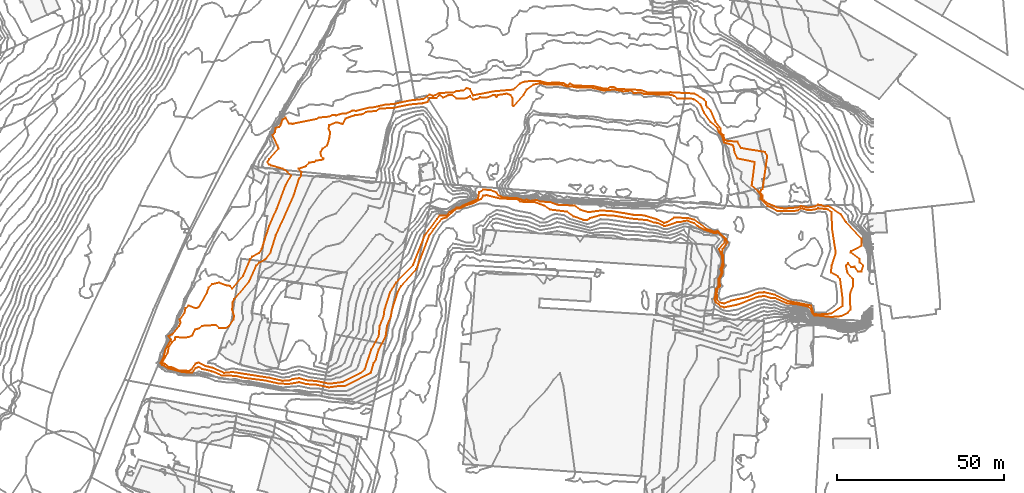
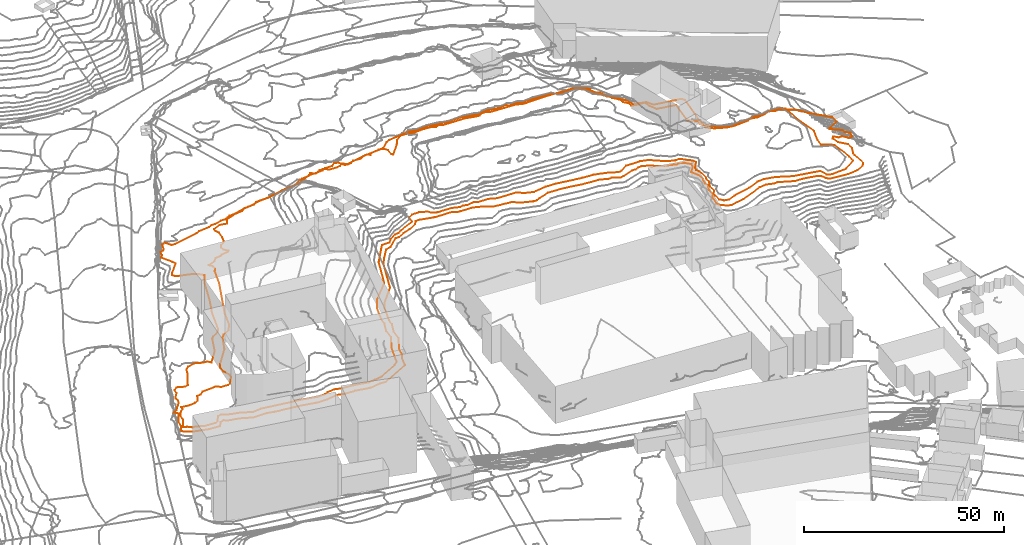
# Not in any storey, part 268 of 419: 2 proxies.
"""IFC2X3 model written with IfcOpenShell, lengths in metres."""

from ifc_helpers import new_model, entity, si_unit, frame, origin_with_axes, place, context, subcontext, project, element, save


model = new_model("IFC2X3")

# Units and contexts
model_context = context("Model", 3, precision=1e-05, world=origin_with_axes())
body_context = subcontext(model_context, "Body", "Model", "MODEL_VIEW")
ifc_project = project(units=[si_unit("AREAUNIT", "SQUARE_METRE"), si_unit("LENGTHUNIT", "METRE")], contexts=[model_context])

# Proxies
proxy_1_placement = place(None, frame((764.0491026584, 415.8976909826, 80.0), z_axis=(0.0, 0.0, 1.0), x_axis=(1.0, 0.0, 0.0)))
element("IfcBuildingElementProxy", 1, at=proxy_1_placement, Name="Contour 80.0 m", ObjectType="NOTDEFINED", context=body_context, shape_type="GeometricCurveSet", body=[
    entity("IfcGeometricCurveSet", [entity("IfcPolyline", [entity("IfcCartesianPoint", [52.042921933, -6.0, 0.0]), entity("IfcCartesianPoint", [50.0429177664, -6.2608677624, 0.0]), entity("IfcCartesianPoint", [46.0429177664, -5.4516107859, 0.0]), entity("IfcCartesianPoint", [43.0429177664, -5.1785724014, 0.0]), entity("IfcCartesianPoint", [41.0429177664, -4.5952406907, 0.0]), entity("IfcCartesianPoint", [39.0429177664, -4.8181786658, 0.0]), entity("IfcCartesianPoint", [38.0429177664, -5.2680431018, 0.0]), entity("IfcCartesianPoint", [36.0429177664, -5.382353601, 0.0]), entity("IfcCartesianPoint", [32.0429177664, -4.4700012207, 0.0]), entity("IfcCartesianPoint", [21.0429177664, -2.7395830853, 0.0]), entity("IfcCartesianPoint", [18.6143619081, -3.0, 0.0]), entity("IfcCartesianPoint", [15.0429177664, -1.4285726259, 0.0]), entity("IfcCartesianPoint", [13.0429177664, -0.9882327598, 0.0]), entity("IfcCartesianPoint", [11.0429177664, 0.0886071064, 0.0]), entity("IfcCartesianPoint", [10.0429177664, -0.1643865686, 0.0]), entity("IfcCartesianPoint", [8.8929162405, -2.0, 0.0]), entity("IfcCartesianPoint", [8.0429177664, -2.4146343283, 0.0]), entity("IfcCartesianPoint", [5.0429177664, -2.2525589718, 0.0]), entity("IfcCartesianPoint", [3.0429177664, -1.3419357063, 0.0]), entity("IfcCartesianPoint", [2.0429177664, -1.2129629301, 0.0]), entity("IfcCartesianPoint", [1.0429177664, -0.3448278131, 0.0]), entity("IfcCartesianPoint", [0.0, 0.0, 0.0]), entity("IfcCartesianPoint", [1.746622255, 3.0, 0.0]), entity("IfcCartesianPoint", [2.0429177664, 4.7812507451, 0.0]), entity("IfcCartesianPoint", [3.0429177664, 6.2666700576, 0.0]), entity("IfcCartesianPoint", [3.9056640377, 7.0, 0.0]), entity("IfcCartesianPoint", [4.0429177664, 7.7778060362, 0.0]), entity("IfcCartesianPoint", [6.0429177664, 7.5000124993, 0.0]), entity("IfcCartesianPoint", [8.0429177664, 7.7000076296, 0.0]), entity("IfcCartesianPoint", [9.0429177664, 8.2221939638, 0.0]), entity("IfcCartesianPoint", [9.9252891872, 10.0, 0.0]), entity("IfcCartesianPoint", [11.0429177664, 10.2307602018, 0.0]), entity("IfcCartesianPoint", [12.0429177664, 11.0434710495, 0.0]), entity("IfcCartesianPoint", [16.0429177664, 11.3106796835, 0.0]), entity("IfcCartesianPoint", [17.0429177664, 10.4666658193, 0.0]), entity("IfcCartesianPoint", [19.0429177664, 10.3370823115, 0.0]), entity("IfcCartesianPoint", [20.0429160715, 11.0, 0.0]), entity("IfcCartesianPoint", [21.4143401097, 13.0, 0.0]), entity("IfcCartesianPoint", [21.570701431, 14.0, 0.0]), entity("IfcCartesianPoint", [21.0429177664, 16.0000500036, 0.0]), entity("IfcCartesianPoint", [21.1338226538, 18.0, 0.0]), entity("IfcCartesianPoint", [21.6558186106, 19.0, 0.0]), entity("IfcCartesianPoint", [26.0429177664, 24.3478289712, 0.0]), entity("IfcCartesianPoint", [28.20959291, 29.0, 0.0]), entity("IfcCartesianPoint", [29.0429177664, 29.9259374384, 0.0]), entity("IfcCartesianPoint", [31.0429135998, 31.0, 0.0]), entity("IfcCartesianPoint", [32.4429177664, 33.0, 0.0]), entity("IfcCartesianPoint", [34.0106533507, 38.0, 0.0]), entity("IfcCartesianPoint", [39.3654960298, 50.0, 0.0]), entity("IfcCartesianPoint", [40.9762612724, 55.0, 0.0]), entity("IfcCartesianPoint", [41.6725484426, 56.0, 0.0]), entity("IfcCartesianPoint", [41.6880742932, 57.0, 0.0]), entity("IfcCartesianPoint", [40.900029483, 58.0, 0.0]), entity("IfcCartesianPoint", [43.0429177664, 58.7857220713, 0.0]), entity("IfcCartesianPoint", [44.0429177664, 59.882371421, 0.0]), entity("IfcCartesianPoint", [45.5428927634, 60.0, 0.0]), entity("IfcCartesianPoint", [46.0429177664, 60.39996948, 0.0]), entity("IfcCartesianPoint", [48.0429177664, 60.714332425, 0.0]), entity("IfcCartesianPoint", [48.3762087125, 61.0, 0.0]), entity("IfcCartesianPoint", [47.542905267, 62.0, 0.0]), entity("IfcCartesianPoint", [47.4714736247, 63.0, 0.0]), entity("IfcCartesianPoint", [48.042867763, 64.0, 0.0]), entity("IfcCartesianPoint", [49.3763358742, 65.0, 0.0]), entity("IfcCartesianPoint", [50.042905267, 67.0, 0.0]), entity("IfcCartesianPoint", [50.292965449, 69.0, 0.0]), entity("IfcCartesianPoint", [49.8428872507, 70.0, 0.0]), entity("IfcCartesianPoint", [50.042905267, 71.0, 0.0]), entity("IfcCartesianPoint", [52.0429177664, 71.8749761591, 0.0]), entity("IfcCartesianPoint", [54.0429177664, 71.39996948, 0.0]), entity("IfcCartesianPoint", [54.8429482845, 73.0, 0.0]), entity("IfcCartesianPoint", [56.0429177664, 73.4545706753, 0.0]), entity("IfcCartesianPoint", [57.7096268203, 74.0, 0.0]), entity("IfcCartesianPoint", [60.0429177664, 74.2999923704, 0.0]), entity("IfcCartesianPoint", [61.0429130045, 75.0, 0.0]), entity("IfcCartesianPoint", [64.0429177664, 75.2619073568, 0.0]), entity("IfcCartesianPoint", [65.0429177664, 76.0000006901, 0.0]), entity("IfcCartesianPoint", [69.0429177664, 76.144442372, 0.0]), entity("IfcCartesianPoint", [74.0429177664, 77.2048166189, 0.0]), entity("IfcCartesianPoint", [78.0429177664, 77.5731724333, 0.0]), entity("IfcCartesianPoint", [79.3554296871, 78.0, 0.0]), entity("IfcCartesianPoint", [80.0429177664, 79.0918333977, 0.0]), entity("IfcCartesianPoint", [82.0429177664, 79.1333312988, 0.0]), entity("IfcCartesianPoint", [83.0429177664, 80.0602401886, 0.0]), entity("IfcCartesianPoint", [84.0429177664, 79.263160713, 0.0]), entity("IfcCartesianPoint", [85.709584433, 80.0, 0.0]), entity("IfcCartesianPoint", [86.7096268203, 80.0, 0.0]), entity("IfcCartesianPoint", [88.0429177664, 79.0000500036, 0.0]), entity("IfcCartesianPoint", [90.0429177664, 78.9230633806, 0.0]), entity("IfcCartesianPoint", [91.0429177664, 79.1333163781, 0.0]), entity("IfcCartesianPoint", [92.0429177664, 79.75, 0.0]), entity("IfcCartesianPoint", [93.0429177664, 78.6750019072, 0.0]), entity("IfcCartesianPoint", [94.0429177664, 78.8235346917, 0.0]), entity("IfcCartesianPoint", [95.0429177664, 79.3571448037, 0.0]), entity("IfcCartesianPoint", [97.0429177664, 79.2580692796, 0.0]), entity("IfcCartesianPoint", [99.0429177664, 80.0312487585, 0.0]), entity("IfcCartesianPoint", [99.5429344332, 80.0, 0.0]), entity("IfcCartesianPoint", [100.0429177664, 79.39996948, 0.0]), entity("IfcCartesianPoint", [100.2736824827, 80.0, 0.0]), entity("IfcCartesianPoint", [103.0429177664, 80.4285714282, 0.0]), entity("IfcCartesianPoint", [104.2929177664, 80.0, 0.0]), entity("IfcCartesianPoint", [104.8762581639, 79.0, 0.0]), entity("IfcCartesianPoint", [104.7929177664, 77.0, 0.0]), entity("IfcCartesianPoint", [105.0429177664, 76.666666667, 0.0]), entity("IfcCartesianPoint", [108.0429177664, 80.0769366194, 0.0]), entity("IfcCartesianPoint", [109.0429177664, 81.6666760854, 0.0]), entity("IfcCartesianPoint", [111.0429177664, 83.1568656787, 0.0]), entity("IfcCartesianPoint", [113.0429177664, 83.5597830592, 0.0]), entity("IfcCartesianPoint", [115.0429177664, 83.1310664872, 0.0]), entity("IfcCartesianPoint", [119.0429177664, 83.2345125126, 0.0]), entity("IfcCartesianPoint", [121.0429177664, 82.506493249, 0.0]), entity("IfcCartesianPoint", [122.0429177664, 82.6390957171, 0.0]), entity("IfcCartesianPoint", [124.0429177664, 82.2539690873, 0.0]), entity("IfcCartesianPoint", [128.0429177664, 82.322727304, 0.0]), entity("IfcCartesianPoint", [132.0429177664, 81.3742688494, 0.0]), entity("IfcCartesianPoint", [135.0429177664, 81.6923089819, 0.0]), entity("IfcCartesianPoint", [138.0429177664, 81.1156054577, 0.0]), entity("IfcCartesianPoint", [140.0429177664, 81.364036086, 0.0]), entity("IfcCartesianPoint", [141.0429177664, 80.6871786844, 0.0]), entity("IfcCartesianPoint", [143.0429177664, 80.715054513, 0.0]), entity("IfcCartesianPoint", [144.0429177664, 80.3600006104, 0.0]), entity("IfcCartesianPoint", [152.0429177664, 80.0977427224, 0.0]), entity("IfcCartesianPoint", [153.0429177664, 79.7857149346, 0.0]), entity("IfcCartesianPoint", [154.0429177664, 78.9583350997, 0.0]), entity("IfcCartesianPoint", [158.0429177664, 78.9852909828, 0.0]), entity("IfcCartesianPoint", [159.0429177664, 78.7543869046, 0.0]), entity("IfcCartesianPoint", [161.0429177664, 77.1842110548, 0.0]), entity("IfcCartesianPoint", [162.0429177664, 74.8048753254, 0.0]), entity("IfcCartesianPoint", [164.0429177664, 71.9795877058, 0.0]), entity("IfcCartesianPoint", [166.0429177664, 70.1333312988, 0.0]), entity("IfcCartesianPoint", [166.4722378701, 69.0, 0.0]), entity("IfcCartesianPoint", [167.3958593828, 68.0, 0.0]), entity("IfcCartesianPoint", [168.0429177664, 65.8026897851, 0.0]), entity("IfcCartesianPoint", [170.7616670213, 65.0, 0.0]), entity("IfcCartesianPoint", [171.1705718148, 63.0, 0.0]), entity("IfcCartesianPoint", [172.0429177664, 61.0454640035, 0.0]), entity("IfcCartesianPoint", [177.1808515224, 60.0, 0.0]), entity("IfcCartesianPoint", [176.2929237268, 53.0, 0.0]), entity("IfcCartesianPoint", [178.0429177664, 51.4239132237, 0.0]), entity("IfcCartesianPoint", [179.0931683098, 50.0, 0.0]), entity("IfcCartesianPoint", [178.871648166, 49.0, 0.0]), entity("IfcCartesianPoint", [181.0429177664, 46.8666676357, 0.0]), entity("IfcCartesianPoint", [184.0429177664, 45.3186810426, 0.0]), entity("IfcCartesianPoint", [189.0429177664, 45.4141428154, 0.0]), entity("IfcCartesianPoint", [190.0429177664, 45.5446420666, 0.0]), entity("IfcCartesianPoint", [191.0429177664, 46.1564647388, 0.0]), entity("IfcCartesianPoint", [193.0429177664, 45.6159973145, 0.0]), entity("IfcCartesianPoint", [195.0429177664, 45.7889885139, 0.0]), entity("IfcCartesianPoint", [196.0429177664, 46.1960760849, 0.0]), entity("IfcCartesianPoint", [199.0429177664, 45.8617042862, 0.0]), entity("IfcCartesianPoint", [200.1222870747, 45.0, 0.0]), entity("IfcCartesianPoint", [200.3131874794, 40.0, 0.0]), entity("IfcCartesianPoint", [201.4113374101, 33.0, 0.0]), entity("IfcCartesianPoint", [200.1454843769, 29.0, 0.0]), entity("IfcCartesianPoint", [199.9929253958, 27.0, 0.0]), entity("IfcCartesianPoint", [202.0429177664, 25.8333306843, 0.0]), entity("IfcCartesianPoint", [202.6986573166, 25.0, 0.0]), entity("IfcCartesianPoint", [203.4857733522, 19.0, 0.0]), entity("IfcCartesianPoint", [203.4275297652, 17.0, 0.0]), entity("IfcCartesianPoint", [200.0429177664, 14.7058836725, 0.0]), entity("IfcCartesianPoint", [196.0429177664, 14.4476189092, 0.0]), entity("IfcCartesianPoint", [195.0429177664, 14.5944888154, 0.0]), entity("IfcCartesianPoint", [194.6656282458, 15.0, 0.0]), entity("IfcCartesianPoint", [194.0429177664, 17.1242596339, 0.0]), entity("IfcCartesianPoint", [187.0429177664, 18.4999991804, 0.0]), entity("IfcCartesianPoint", [183.0429177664, 20.3714269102, 0.0]), entity("IfcCartesianPoint", [180.0429177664, 21.0999966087, 0.0]), entity("IfcCartesianPoint", [178.0429177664, 20.9285740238, 0.0]), entity("IfcCartesianPoint", [175.0429177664, 19.7000009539, 0.0]), entity("IfcCartesianPoint", [170.0429177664, 18.5652145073, 0.0]), entity("IfcCartesianPoint", [168.0429177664, 17.7432418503, 0.0]), entity("IfcCartesianPoint", [166.751774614, 18.0, 0.0]), entity("IfcCartesianPoint", [165.9040304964, 19.0, 0.0]), entity("IfcCartesianPoint", [165.8460434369, 21.0, 0.0]), entity("IfcCartesianPoint", [166.0101313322, 22.0, 0.0]), entity("IfcCartesianPoint", [166.7890707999, 23.0, 0.0]), entity("IfcCartesianPoint", [166.6740421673, 25.0, 0.0]), entity("IfcCartesianPoint", [167.6009822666, 27.0, 0.0]), entity("IfcCartesianPoint", [167.444663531, 28.0, 0.0]), entity("IfcCartesianPoint", [167.8304631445, 29.0, 0.0]), entity("IfcCartesianPoint", [167.7050435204, 32.0, 0.0]), entity("IfcCartesianPoint", [167.3807548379, 33.0, 0.0]), entity("IfcCartesianPoint", [167.6406184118, 34.0, 0.0]), entity("IfcCartesianPoint", [169.0335699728, 36.0, 0.0]), entity("IfcCartesianPoint", [168.6097964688, 37.0, 0.0]), entity("IfcCartesianPoint", [166.0429177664, 39.3537105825, 0.0]), entity("IfcCartesianPoint", [165.0429177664, 39.1990055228, 0.0]), entity("IfcCartesianPoint", [162.847793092, 40.0, 0.0]), entity("IfcCartesianPoint", [159.0429177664, 42.7731949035, 0.0]), entity("IfcCartesianPoint", [157.0429177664, 43.321741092, 0.0]), entity("IfcCartesianPoint", [153.0429177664, 43.3714291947, 0.0]), entity("IfcCartesianPoint", [151.0429177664, 42.0566016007, 0.0]), entity("IfcCartesianPoint", [150.0429177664, 41.8411231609, 0.0]), entity("IfcCartesianPoint", [148.0429177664, 42.8762859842, 0.0]), entity("IfcCartesianPoint", [144.0429177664, 44.0666707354, 0.0]), entity("IfcCartesianPoint", [141.0429177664, 44.2337676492, 0.0]), entity("IfcCartesianPoint", [134.0429177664, 45.3648613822, 0.0]), entity("IfcCartesianPoint", [131.0429177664, 45.5147034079, 0.0]), entity("IfcCartesianPoint", [127.3763358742, 45.0, 0.0]), entity("IfcCartesianPoint", [125.0429177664, 45.7727146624, 0.0]), entity("IfcCartesianPoint", [123.4113324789, 47.0, 0.0]), entity("IfcCartesianPoint", [118.0429177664, 47.2295069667, 0.0]), entity("IfcCartesianPoint", [116.0429177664, 48.0604640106, 0.0]), entity("IfcCartesianPoint", [113.0429177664, 48.1733971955, 0.0]), entity("IfcCartesianPoint", [112.0429177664, 48.7000011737, 0.0]), entity("IfcCartesianPoint", [110.0429177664, 48.3819442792, 0.0]), entity("IfcCartesianPoint", [109.0429177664, 48.7552458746, 0.0]), entity("IfcCartesianPoint", [108.0429177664, 48.5330400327, 0.0]), entity("IfcCartesianPoint", [106.0429177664, 49.2358720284, 0.0]), entity("IfcCartesianPoint", [102.0429177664, 49.3767120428, 0.0]), entity("IfcCartesianPoint", [100.5778000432, 50.0, 0.0]), entity("IfcCartesianPoint", [100.0429177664, 50.9019552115, 0.0]), entity("IfcCartesianPoint", [98.0429177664, 51.6785694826, 0.0]), entity("IfcCartesianPoint", [96.0429177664, 51.7413774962, 0.0]), entity("IfcCartesianPoint", [94.8286398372, 51.0, 0.0]), entity("IfcCartesianPoint", [94.4798916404, 49.0, 0.0]), entity("IfcCartesianPoint", [90.0429177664, 47.0787162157, 0.0]), entity("IfcCartesianPoint", [89.0429177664, 46.3956830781, 0.0]), entity("IfcCartesianPoint", [88.0429177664, 46.3656508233, 0.0]), entity("IfcCartesianPoint", [86.0429177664, 45.0165282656, 0.0]), entity("IfcCartesianPoint", [85.0429177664, 43.9891909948, 0.0]), entity("IfcCartesianPoint", [82.9622680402, 44.0, 0.0]), entity("IfcCartesianPoint", [82.1821588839, 43.0, 0.0]), entity("IfcCartesianPoint", [78.529406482, 38.0, 0.0]), entity("IfcCartesianPoint", [75.0429177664, 29.2121191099, 0.0]), entity("IfcCartesianPoint", [69.9476770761, 24.0, 0.0]), entity("IfcCartesianPoint", [68.1705718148, 21.0, 0.0]), entity("IfcCartesianPoint", [66.5540311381, 16.0, 0.0]), entity("IfcCartesianPoint", [66.3037938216, 14.0, 0.0]), entity("IfcCartesianPoint", [65.1081326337, 11.0, 0.0]), entity("IfcCartesianPoint", [64.8037855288, 8.0, 0.0]), entity("IfcCartesianPoint", [62.5748312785, 4.0, 0.0]), entity("IfcCartesianPoint", [60.6298681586, -2.0, 0.0]), entity("IfcCartesianPoint", [59.4095827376, -3.0, 0.0]), entity("IfcCartesianPoint", [54.0429177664, -5.7166689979, 0.0]), entity("IfcCartesianPoint", [52.042921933, -6.0, 0.0])])]),
])
proxy_2_placement = place(None, frame((763.6199184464, 415.8976909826, 79.0), z_axis=(0.0, 0.0, 1.0), x_axis=(1.0, 0.0, 0.0)))
element("IfcBuildingElementProxy", 2, at=proxy_2_placement, Name="Contour 79.0 m", ObjectType="NOTDEFINED", context=body_context, shape_type="GeometricCurveSet", body=[
    entity("IfcGeometricCurveSet", [entity("IfcPolyline", [entity("IfcCartesianPoint", [55.0054420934, -7.0, 0.0]), entity("IfcCartesianPoint", [53.4721019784, -6.8837227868, 0.0]), entity("IfcCartesianPoint", [50.4721019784, -7.3516495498, 0.0]), entity("IfcCartesianPoint", [46.4721019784, -6.538461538, 0.0]), entity("IfcCartesianPoint", [43.4721019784, -6.3522710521, 0.0]), entity("IfcCartesianPoint", [41.4721019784, -5.776469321, 0.0]), entity("IfcCartesianPoint", [38.4721019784, -6.2929308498, 0.0]), entity("IfcCartesianPoint", [35.4721019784, -6.2380945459, 0.0]), entity("IfcCartesianPoint", [31.4721019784, -5.3131295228, 0.0]), entity("IfcCartesianPoint", [24.4721019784, -4.4123721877, 0.0]), entity("IfcCartesianPoint", [22.4721019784, -3.8811856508, 0.0]), entity("IfcCartesianPoint", [18.4721019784, -3.8518487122, 0.0]), entity("IfcCartesianPoint", [15.4721019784, -2.5333361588, 0.0]), entity("IfcCartesianPoint", [12.4721019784, -1.851350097, 0.0]), entity("IfcCartesianPoint", [11.4721019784, -1.2027053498, 0.0]), entity("IfcCartesianPoint", [10.4721019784, -1.5416649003, 0.0]), entity("IfcCartesianPoint", [9.4721019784, -2.9659103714, 0.0]), entity("IfcCartesianPoint", [6.4721019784, -2.7629296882, 0.0]), entity("IfcCartesianPoint", [2.4721019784, -1.675926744, 0.0]), entity("IfcCartesianPoint", [0.4721019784, -0.6077347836, 0.0]), entity("IfcCartesianPoint", [0.0, 0.0, 0.0]), entity("IfcCartesianPoint", [1.0326392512, 2.0, 0.0]), entity("IfcCartesianPoint", [1.4878474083, 4.0, 0.0]), entity("IfcCartesianPoint", [3.1849232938, 7.0, 0.0]), entity("IfcCartesianPoint", [2.3738567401, 8.0, 0.0]), entity("IfcCartesianPoint", [3.4721019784, 8.4785276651, 0.0]), entity("IfcCartesianPoint", [5.5346034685, 11.0, 0.0]), entity("IfcCartesianPoint", [6.0119268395, 12.0, 0.0]), entity("IfcCartesianPoint", [5.775129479, 13.0, 0.0]), entity("IfcCartesianPoint", [7.2270031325, 15.0, 0.0]), entity("IfcCartesianPoint", [7.4721019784, 16.3023189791, 0.0]), entity("IfcCartesianPoint", [8.4721019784, 17.1250238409, 0.0]), entity("IfcCartesianPoint", [10.4721019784, 16.2999923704, 0.0]), entity("IfcCartesianPoint", [11.4721019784, 16.642833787, 0.0]), entity("IfcCartesianPoint", [13.9111231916, 21.0, 0.0]), entity("IfcCartesianPoint", [14.4721019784, 22.5483855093, 0.0]), entity("IfcCartesianPoint", [15.4721019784, 23.4745771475, 0.0]), entity("IfcCartesianPoint", [17.4721119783, 24.0, 0.0]), entity("IfcCartesianPoint", [19.4721019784, 23.179486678, 0.0]), entity("IfcCartesianPoint", [20.7720943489, 23.0, 0.0]), entity("IfcCartesianPoint", [21.4721019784, 22.19231785, 0.0]), entity("IfcCartesianPoint", [24.6563130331, 26.0, 0.0]), entity("IfcCartesianPoint", [26.8332048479, 31.0, 0.0]), entity("IfcCartesianPoint", [27.4721019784, 31.7187611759, 0.0]), entity("IfcCartesianPoint", [29.4721019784, 32.8800048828, 0.0]), entity("IfcCartesianPoint", [30.2797841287, 34.0, 0.0]), entity("IfcCartesianPoint", [32.4721019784, 40.9230633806, 0.0]), entity("IfcCartesianPoint", [34.7387720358, 46.0, 0.0]), entity("IfcCartesianPoint", [37.3369595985, 53.0, 0.0]), entity("IfcCartesianPoint", [39.0302361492, 56.0, 0.0]), entity("IfcCartesianPoint", [38.07675768, 57.0, 0.0]), entity("IfcCartesianPoint", [36.5208747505, 58.0, 0.0]), entity("IfcCartesianPoint", [33.0911392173, 59.0, 0.0]), entity("IfcCartesianPoint", [32.4721019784, 59.3095186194, 0.0]), entity("IfcCartesianPoint", [32.0043606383, 60.0, 0.0]), entity("IfcCartesianPoint", [32.4721019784, 60.9062537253, 0.0]), entity("IfcCartesianPoint", [35.2547092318, 64.0, 0.0]), entity("IfcCartesianPoint", [35.0105606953, 65.0, 0.0]), entity("IfcCartesianPoint", [33.4618634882, 68.0, 0.0]), entity("IfcCartesianPoint", [34.2352607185, 69.0, 0.0]), entity("IfcCartesianPoint", [34.4721019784, 70.2070486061, 0.0]), entity("IfcCartesianPoint", [35.4721019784, 70.5376342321, 0.0]), entity("IfcCartesianPoint", [35.910876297, 71.0, 0.0]), entity("IfcCartesianPoint", [36.4721019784, 72.7624978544, 0.0]), entity("IfcCartesianPoint", [37.4721019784, 73.2317103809, 0.0]), entity("IfcCartesianPoint", [38.4721019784, 71.439021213, 0.0]), entity("IfcCartesianPoint", [39.4721019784, 71.435294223, 0.0]), entity("IfcCartesianPoint", [46.4721019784, 72.8641963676, 0.0]), entity("IfcCartesianPoint", [47.4721019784, 73.2945713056, 0.0]), entity("IfcCartesianPoint", [50.4721019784, 73.5895511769, 0.0]), entity("IfcCartesianPoint", [51.4721019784, 74.0800018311, 0.0]), entity("IfcCartesianPoint", [52.4721019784, 73.9677432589, 0.0]), entity("IfcCartesianPoint", [54.4721019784, 74.5478266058, 0.0]), entity("IfcCartesianPoint", [55.4721019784, 74.555555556, 0.0]), entity("IfcCartesianPoint", [57.4721019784, 75.3467750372, 0.0]), entity("IfcCartesianPoint", [58.4721019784, 75.3043471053, 0.0]), entity("IfcCartesianPoint", [62.4721019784, 76.326921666, 0.0]), entity("IfcCartesianPoint", [63.4721019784, 76.3000030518, 0.0]), entity("IfcCartesianPoint", [67.4721019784, 77.2333319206, 0.0]), entity("IfcCartesianPoint", [69.4721019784, 77.2911431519, 0.0]), entity("IfcCartesianPoint", [74.4721019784, 78.4047593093, 0.0]), entity("IfcCartesianPoint", [78.4721019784, 78.8552627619, 0.0]), entity("IfcCartesianPoint", [80.4721019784, 80.1692313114, 0.0]), entity("IfcCartesianPoint", [81.4721019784, 79.7867641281, 0.0]), entity("IfcCartesianPoint", [83.4721019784, 80.6626512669, 0.0]), entity("IfcCartesianPoint", [87.4721019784, 80.7596919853, 0.0]), entity("IfcCartesianPoint", [88.4721019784, 81.2871290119, 0.0]), entity("IfcCartesianPoint", [90.4721019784, 81.3061268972, 0.0]), entity("IfcCartesianPoint", [91.4721019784, 82.0909141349, 0.0]), entity("IfcCartesianPoint", [92.4721019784, 81.7903253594, 0.0]), entity("IfcCartesianPoint", [93.4721019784, 79.9456491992, 0.0]), entity("IfcCartesianPoint", [99.4721019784, 81.1093746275, 0.0]), entity("IfcCartesianPoint", [105.4721019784, 81.663463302, 0.0]), entity("IfcCartesianPoint", [107.4721019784, 83.5087738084, 0.0]), entity("IfcCartesianPoint", [108.4721019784, 83.9811280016, 0.0]), entity("IfcCartesianPoint", [110.4721019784, 84.2040794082, 0.0]), entity("IfcCartesianPoint", [113.4721019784, 84.1759278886, 0.0]), entity("IfcCartesianPoint", [115.4721019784, 83.6165039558, 0.0]), entity("IfcCartesianPoint", [118.4721019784, 83.7926279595, 0.0]), entity("IfcCartesianPoint", [120.4721019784, 83.5679018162, 0.0]), entity("IfcCartesianPoint", [121.4721019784, 82.9393941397, 0.0]), entity("IfcCartesianPoint", [122.4721019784, 83.4406750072, 0.0]), entity("IfcCartesianPoint", [123.4721019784, 82.8659784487, 0.0]), entity("IfcCartesianPoint", [129.4721019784, 82.6774202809, 0.0]), entity("IfcCartesianPoint", [132.4721019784, 81.9590644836, 0.0]), entity("IfcCartesianPoint", [133.4721019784, 81.8921154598, 0.0]), entity("IfcCartesianPoint", [134.4721019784, 82.4315807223, 0.0]), entity("IfcCartesianPoint", [135.4721019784, 82.4782605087, 0.0]), entity("IfcCartesianPoint", [136.4721019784, 81.8577993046, 0.0]), entity("IfcCartesianPoint", [143.4721019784, 81.5280916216, 0.0]), entity("IfcCartesianPoint", [145.4721019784, 80.8361580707, 0.0]), entity("IfcCartesianPoint", [152.4721019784, 80.8496256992, 0.0]), entity("IfcCartesianPoint", [159.4721019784, 80.4833360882, 0.0]), entity("IfcCartesianPoint", [162.4721019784, 78.711115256, 0.0]), entity("IfcCartesianPoint", [163.1387633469, 78.0, 0.0]), entity("IfcCartesianPoint", [163.0822684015, 77.0, 0.0]), entity("IfcCartesianPoint", [163.4721019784, 76.2812388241, 0.0]), entity("IfcCartesianPoint", [164.4721019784, 75.4285714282, 0.0]), entity("IfcCartesianPoint", [165.9636256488, 72.0, 0.0]), entity("IfcCartesianPoint", [167.4721031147, 70.0, 0.0]), entity("IfcCartesianPoint", [167.424983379, 69.0, 0.0]), entity("IfcCartesianPoint", [168.3152394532, 68.0, 0.0]), entity("IfcCartesianPoint", [168.4721019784, 66.6588218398, 0.0]), entity("IfcCartesianPoint", [169.4721019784, 66.3090880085, 0.0]), entity("IfcCartesianPoint", [172.4721019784, 66.1046477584, 0.0]), entity("IfcCartesianPoint", [173.4721019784, 64.2068874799, 0.0]), entity("IfcCartesianPoint", [180.672132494, 63.0, 0.0]), entity("IfcCartesianPoint", [181.3686582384, 62.0, 0.0]), entity("IfcCartesianPoint", [179.9721051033, 52.0, 0.0]), entity("IfcCartesianPoint", [179.4721019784, 51.6923031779, 0.0]), entity("IfcCartesianPoint", [179.2663873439, 51.0, 0.0]), entity("IfcCartesianPoint", [180.024865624, 50.0, 0.0]), entity("IfcCartesianPoint", [179.9321036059, 49.0, 0.0]), entity("IfcCartesianPoint", [180.4721019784, 48.4255320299, 0.0]), entity("IfcCartesianPoint", [181.4721019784, 47.6417896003, 0.0]), entity("IfcCartesianPoint", [184.4721019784, 46.3917523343, 0.0]), entity("IfcCartesianPoint", [186.4721019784, 46.1182801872, 0.0]), entity("IfcCartesianPoint", [190.4721019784, 46.4224133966, 0.0]), entity("IfcCartesianPoint", [191.4721019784, 46.8367362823, 0.0]), entity("IfcCartesianPoint", [193.4721019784, 46.412697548, 0.0]), entity("IfcCartesianPoint", [195.4721019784, 46.7264136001, 0.0]), entity("IfcCartesianPoint", [196.4721019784, 47.25, 0.0]), entity("IfcCartesianPoint", [197.4721019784, 47.1384572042, 0.0]), entity("IfcCartesianPoint", [198.4721019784, 46.6400024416, 0.0]), entity("IfcCartesianPoint", [199.4721019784, 46.915787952, 0.0]), entity("IfcCartesianPoint", [203.4721019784, 44.2963025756, 0.0]), entity("IfcCartesianPoint", [204.959288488, 42.0, 0.0]), entity("IfcCartesianPoint", [209.4721019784, 37.1874970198, 0.0]), entity("IfcCartesianPoint", [209.4721019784, 34.9999750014, 0.0]), entity("IfcCartesianPoint", [206.4721019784, 33.3334181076, 0.0]), entity("IfcCartesianPoint", [206.3054141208, 33.0, 0.0]), entity("IfcCartesianPoint", [208.8721172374, 31.0, 0.0]), entity("IfcCartesianPoint", [208.9721186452, 30.0, 0.0]), entity("IfcCartesianPoint", [210.0435461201, 29.0, 0.0]), entity("IfcCartesianPoint", [209.4721019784, 27.3334181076, 0.0]), entity("IfcCartesianPoint", [208.4721019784, 27.3334181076, 0.0]), entity("IfcCartesianPoint", [207.4721019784, 28.714332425, 0.0]), entity("IfcCartesianPoint", [206.4721019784, 28.666666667, 0.0]), entity("IfcCartesianPoint", [205.4721019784, 29.7499523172, 0.0]), entity("IfcCartesianPoint", [204.872071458, 29.0, 0.0]), entity("IfcCartesianPoint", [205.3054565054, 27.0, 0.0]), entity("IfcCartesianPoint", [206.9984241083, 25.0, 0.0]), entity("IfcCartesianPoint", [207.0435461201, 23.0, 0.0]), entity("IfcCartesianPoint", [206.1993873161, 21.0, 0.0]), entity("IfcCartesianPoint", [206.0721019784, 20.0, 0.0]), entity("IfcCartesianPoint", [206.228200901, 16.0, 0.0]), entity("IfcCartesianPoint", [205.4721186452, 15.0, 0.0]), entity("IfcCartesianPoint", [203.4721019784, 13.9705822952, 0.0]), entity("IfcCartesianPoint", [200.4721019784, 13.7031247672, 0.0]), entity("IfcCartesianPoint", [195.4721019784, 14.2007881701, 0.0]), entity("IfcCartesianPoint", [194.7285115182, 15.0, 0.0]), entity("IfcCartesianPoint", [194.4414253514, 16.0, 0.0]), entity("IfcCartesianPoint", [193.4721019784, 16.8449195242, 0.0]), entity("IfcCartesianPoint", [189.4721019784, 17.6203219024, 0.0]), entity("IfcCartesianPoint", [187.4721019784, 17.6803286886, 0.0]), entity("IfcCartesianPoint", [183.4721019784, 19.4190487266, 0.0]), entity("IfcCartesianPoint", [182.4721019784, 19.3555546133, 0.0]), entity("IfcCartesianPoint", [180.4721019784, 19.9887616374, 0.0]), entity("IfcCartesianPoint", [178.4721019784, 19.7317057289, 0.0]), entity("IfcCartesianPoint", [172.4721019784, 17.3823559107, 0.0]), entity("IfcCartesianPoint", [168.4721019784, 16.5754735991, 0.0]), entity("IfcCartesianPoint", [167.4721019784, 16.8947343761, 0.0]), entity("IfcCartesianPoint", [166.0089437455, 18.0, 0.0]), entity("IfcCartesianPoint", [165.638767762, 19.0, 0.0]), entity("IfcCartesianPoint", [166.1114461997, 22.0, 0.0]), entity("IfcCartesianPoint", [166.8336405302, 23.0, 0.0]), entity("IfcCartesianPoint", [166.8150420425, 25.0, 0.0]), entity("IfcCartesianPoint", [167.7075864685, 27.0, 0.0]), entity("IfcCartesianPoint", [167.4402287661, 28.0, 0.0]), entity("IfcCartesianPoint", [167.9847605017, 30.0, 0.0]), entity("IfcCartesianPoint", [167.8617480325, 32.0, 0.0]), entity("IfcCartesianPoint", [166.9446278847, 34.0, 0.0]), entity("IfcCartesianPoint", [168.528174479, 36.0, 0.0]), entity("IfcCartesianPoint", [168.7205092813, 37.0, 0.0]), entity("IfcCartesianPoint", [167.4721019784, 38.3734332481, 0.0]), entity("IfcCartesianPoint", [166.4721019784, 38.8914271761, 0.0]), entity("IfcCartesianPoint", [165.4721019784, 38.7826094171, 0.0]), entity("IfcCartesianPoint", [162.4721019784, 39.779222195, 0.0]), entity("IfcCartesianPoint", [160.4721019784, 40.8270653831, 0.0]), entity("IfcCartesianPoint", [159.4721019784, 41.7368412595, 0.0]), entity("IfcCartesianPoint", [157.4721019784, 42.4521733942, 0.0]), entity("IfcCartesianPoint", [156.4721019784, 42.4444422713, 0.0]), entity("IfcCartesianPoint", [155.4721019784, 42.0344815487, 0.0]), entity("IfcCartesianPoint", [154.4721019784, 42.1124960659, 0.0]), entity("IfcCartesianPoint", [151.4721019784, 40.9999989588, 0.0]), entity("IfcCartesianPoint", [150.4721019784, 40.9065434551, 0.0]), entity("IfcCartesianPoint", [148.4721019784, 41.8421044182, 0.0]), entity("IfcCartesianPoint", [147.4721019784, 41.8829783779, 0.0]), entity("IfcCartesianPoint", [145.4721019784, 42.6329106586, 0.0]), entity("IfcCartesianPoint", [140.4721019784, 43.102566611, 0.0]), entity("IfcCartesianPoint", [135.4721019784, 43.9864836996, 0.0]), entity("IfcCartesianPoint", [131.4721019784, 44.1772142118, 0.0]), entity("IfcCartesianPoint", [128.4721019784, 43.2580692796, 0.0]), entity("IfcCartesianPoint", [127.4721019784, 42.6833324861, 0.0]), entity("IfcCartesianPoint", [126.4721019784, 42.6999979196, 0.0]), entity("IfcCartesianPoint", [123.4721019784, 43.7849495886, 0.0]), entity("IfcCartesianPoint", [121.4721019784, 45.1643865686, 0.0]), entity("IfcCartesianPoint", [116.4721019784, 45.7941163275, 0.0]), entity("IfcCartesianPoint", [114.6149357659, 47.0, 0.0]), entity("IfcCartesianPoint", [111.8721019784, 48.0, 0.0]), entity("IfcCartesianPoint", [108.4721019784, 48.0925107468, 0.0]), entity("IfcCartesianPoint", [107.4721019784, 48.2608718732, 0.0]), entity("IfcCartesianPoint", [106.4721019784, 48.9111099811, 0.0]), entity("IfcCartesianPoint", [101.4721019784, 49.0849655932, 0.0]), entity("IfcCartesianPoint", [97.4721019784, 50.0862118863, 0.0]), entity("IfcCartesianPoint", [96.4721019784, 49.9811280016, 0.0]), entity("IfcCartesianPoint", [95.8603401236, 49.0, 0.0]), entity("IfcCartesianPoint", [93.4721019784, 47.7000020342, 0.0]), entity("IfcCartesianPoint", [91.257051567, 47.0, 0.0]), entity("IfcCartesianPoint", [89.4721019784, 46.0359706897, 0.0]), entity("IfcCartesianPoint", [88.4721019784, 46.0886425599, 0.0]), entity("IfcCartesianPoint", [85.4721019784, 43.4486500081, 0.0]), entity("IfcCartesianPoint", [83.9644080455, 43.0, 0.0]), entity("IfcCartesianPoint", [81.6928797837, 40.0, 0.0]), entity("IfcCartesianPoint", [80.3214169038, 38.0, 0.0]), entity("IfcCartesianPoint", [76.4721019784, 28.05881429, 0.0]), entity("IfcCartesianPoint", [71.9139678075, 23.0, 0.0]), entity("IfcCartesianPoint", [70.8442032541, 21.0, 0.0]), entity("IfcCartesianPoint", [69.2276545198, 16.0, 0.0]), entity("IfcCartesianPoint", [68.9068788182, 14.0, 0.0]), entity("IfcCartesianPoint", [67.711234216, 11.0, 0.0]), entity("IfcCartesianPoint", [67.3657127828, 8.0, 0.0]), entity("IfcCartesianPoint", [65.2054319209, 4.0, 0.0]), entity("IfcCartesianPoint", [64.3887721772, 1.0, 0.0]), entity("IfcCartesianPoint", [63.7609867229, 0.0, 0.0]), entity("IfcCartesianPoint", [62.8567218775, -3.0, 0.0]), entity("IfcCartesianPoint", [55.0054420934, -7.0, 0.0])])]),
])

save(model, "model.ifc")
